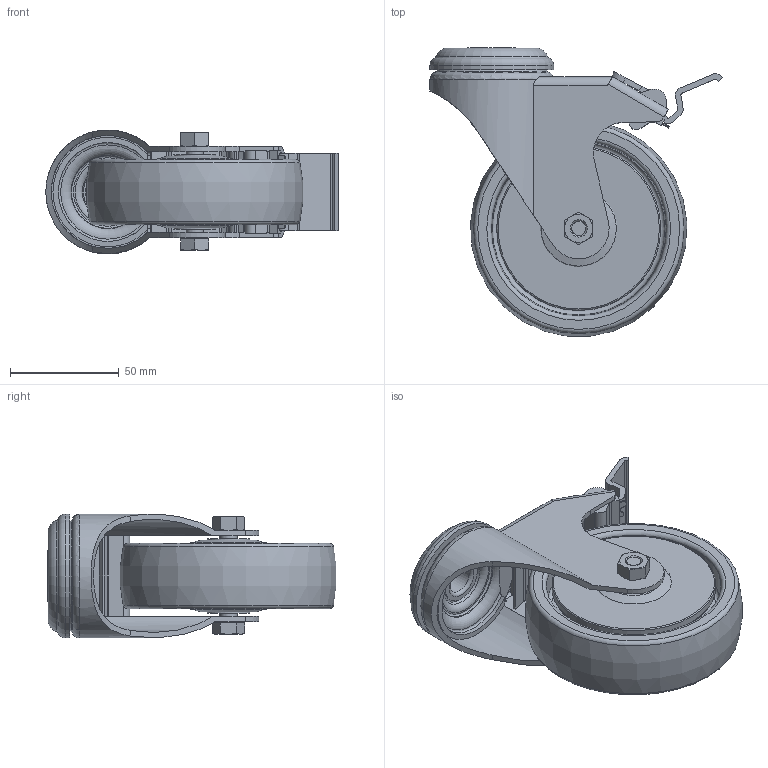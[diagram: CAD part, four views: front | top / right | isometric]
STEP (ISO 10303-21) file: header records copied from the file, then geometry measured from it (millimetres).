
FILE_DESCRIPTION(/* description */ ('STEP AP214'),/* implementation_level */ '2;1');
FILE_NAME(/* name */ '098S100UDN',/* time_stamp */ '2023-08-30T10:55:11+02:00',/* author */ ('License CC BY-ND 4.0'),/* organization */ ('CADENAS'),/* preprocessor_version */ 'ST-DEVELOPER v19.3',/* originating_system */ 'PARTsolutions',/* authorisation */ ' ');
FILE_SCHEMA (('AUTOMOTIVE_DESIGN {1 0 10303 214 3 1 1}'));
Length unit declared in the file: millimetre
Products named in the file (6): 098S100UDN; 098S100UDN_wb; 098S100UDN_w; 098S100UDN_s; 098S100UDN_nut; 098S100UDN_h
Assembly tree (6 placements, depth 2):
  098S100UDN
    098S100UDN_wb  x2
    098S100UDN_w
    098S100UDN_s
    098S100UDN_nut
    098S100UDN_h
Bounding box: 134.5 x 132.63 x 57 mm (x, y, z)
Volume: 248169 mm3; surface area: 93022.8 mm2
Topology: 6 solids, 6 shells, 310 faces, 800 edges, 511 vertices
Faces by surface type: plane 157, cylinder 75, cone 43, torus 35
Full cylindrical faces by diameter (mm): 6.647 x1, 8 x1, 8.2 x1, 8.5 x2, 13 x2, 16 x2, 19.5 x2, 20.45 x1, 29 x1, 57 x1, 75.2 x2
Entity records: 9251 total; most frequent: CARTESIAN_POINT 1875, DIRECTION 1507, ORIENTED_EDGE 1448, EDGE_CURVE 724, AXIS2_PLACEMENT_3D 568, VERTEX_POINT 496, EDGE_LOOP 386, FACE_BOUND 386
